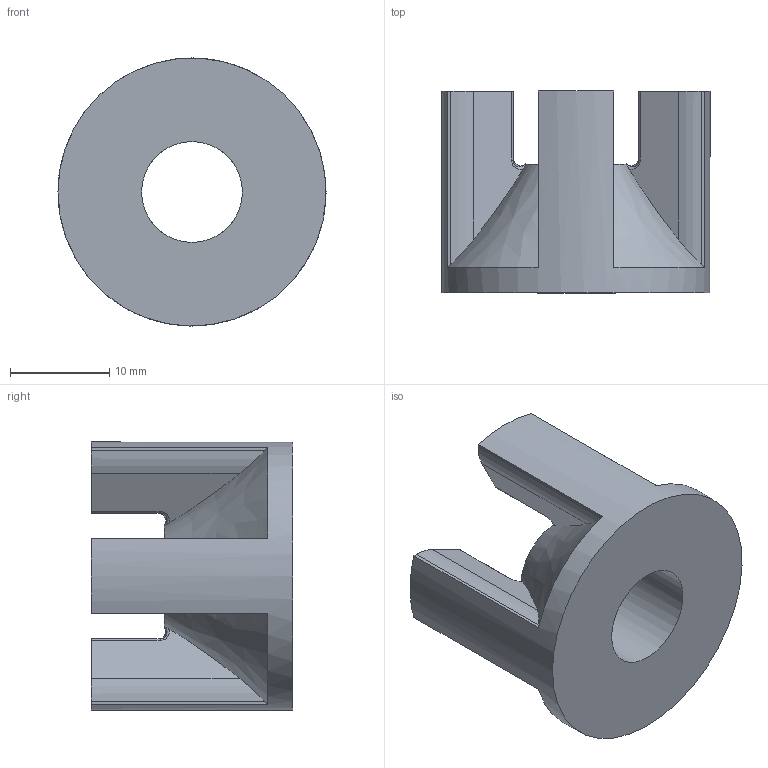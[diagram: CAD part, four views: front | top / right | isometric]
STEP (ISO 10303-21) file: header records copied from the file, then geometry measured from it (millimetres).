
FILE_DESCRIPTION(/* description */ (''),/* implementation_level */ '2;1');
FILE_NAME(/* name */ 'C:/Users/Owner/Desktop/liberator suppressed/STEP Files/36 Caliber versions/40 Cal Liberator Suppressor baffle.step',/* time_stamp */ '2020-04-23T21:42:32-04:00',/* author */ (''),/* organization */ (''),/* preprocessor_version */ 'ST-DEVELOPER v18.1',/* originating_system */ 'Autodesk Translation Framework v9.2.0.1227',/* authorisation */ '');
FILE_SCHEMA (('AUTOMOTIVE_DESIGN { 1 0 10303 214 3 1 1 }'));
Length unit declared in the file: inch
Products named in the file (1): .8 x 1.064 lib sup baffle 40 cal
Bounding box: 27.03 x 20.32 x 27.03 mm (x, y, z)
Volume: 5568.5 mm3; surface area: 3224.9 mm2
Topology: 1 solids, 1 shells, 59 faces, 175 edges, 117 vertices
Faces by surface type: plane 25, cylinder 18, bspline 16
Full cylindrical faces by diameter (mm): 10.16 x1, 27.026 x1
Entity records: 2824 total; most frequent: CARTESIAN_POINT 1358, ORIENTED_EDGE 350, DIRECTION 230, EDGE_CURVE 175, VERTEX_POINT 117, AXIS2_PLACEMENT_3D 84, B_SPLINE_CURVE_WITH_KNOTS 73, LINE 62
